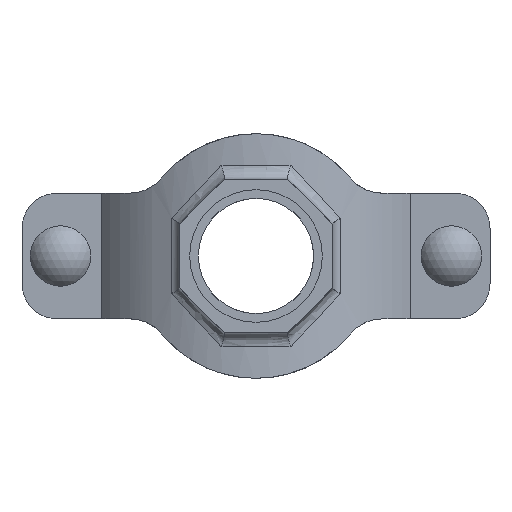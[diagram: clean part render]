
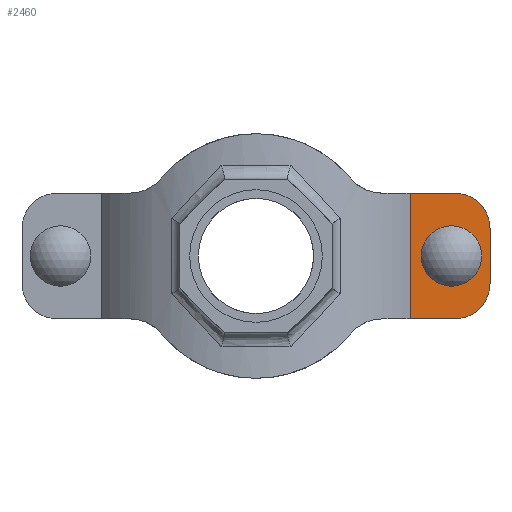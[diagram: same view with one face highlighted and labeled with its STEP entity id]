
A CAD part, front view. The second image highlights one B-rep face of the part: STEP entity #2460.
In plain terms, the highlighted planar face has unit normal (0, -1, 0) as drawn and (0, 1, 0) by its records, which use the part's own axes.
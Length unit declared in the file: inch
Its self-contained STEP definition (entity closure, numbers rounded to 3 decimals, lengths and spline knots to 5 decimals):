
#179=FACE_BOUND('',#445,.T.);
#296=FACE_OUTER_BOUND('',#444,.T.);
#444=EDGE_LOOP('',(#2079,#2080,#2081,#2082,#2083,#2084));
#445=EDGE_LOOP('',(#2085,#2086,#2087,#2088));
#585=LINE('',#4761,#767);
#596=LINE('',#4851,#778);
#600=LINE('',#4862,#782);
#628=LINE('',#5106,#810);
#629=LINE('',#5108,#811);
#630=LINE('',#5112,#812);
#767=VECTOR('',#3203,0.3937);
#778=VECTOR('',#3240,0.3937);
#782=VECTOR('',#3252,0.3937);
#810=VECTOR('',#3336,0.3937);
#811=VECTOR('',#3337,0.3937);
#812=VECTOR('',#3340,0.3937);
#886=CIRCLE('',#2704,0.343);
#888=CIRCLE('',#2708,0.343);
#901=CIRCLE('',#2739,0.63);
#902=CIRCLE('',#2740,0.63);
#1077=VERTEX_POINT('',#4758);
#1078=VERTEX_POINT('',#4760);
#1090=VERTEX_POINT('',#4841);
#1091=VERTEX_POINT('',#4842);
#1094=VERTEX_POINT('',#4850);
#1096=VERTEX_POINT('',#4856);
#1127=VERTEX_POINT('',#5105);
#1128=VERTEX_POINT('',#5107);
#1129=VERTEX_POINT('',#5109);
#1130=VERTEX_POINT('',#5111);
#1381=EDGE_CURVE('',#1078,#1077,#585,.T.);
#1398=EDGE_CURVE('',#1090,#1091,#886,.T.);
#1402=EDGE_CURVE('',#1091,#1094,#596,.T.);
#1405=EDGE_CURVE('',#1094,#1096,#888,.T.);
#1408=EDGE_CURVE('',#1096,#1090,#600,.T.);
#1454=EDGE_CURVE('',#1078,#1127,#628,.T.);
#1455=EDGE_CURVE('',#1128,#1077,#629,.T.);
#1456=EDGE_CURVE('',#1129,#1128,#901,.T.);
#1457=EDGE_CURVE('',#1130,#1129,#630,.T.);
#1458=EDGE_CURVE('',#1127,#1130,#902,.T.);
#2079=ORIENTED_EDGE('',*,*,#1454,.F.);
#2080=ORIENTED_EDGE('',*,*,#1381,.T.);
#2081=ORIENTED_EDGE('',*,*,#1455,.F.);
#2082=ORIENTED_EDGE('',*,*,#1456,.F.);
#2083=ORIENTED_EDGE('',*,*,#1457,.F.);
#2084=ORIENTED_EDGE('',*,*,#1458,.F.);
#2085=ORIENTED_EDGE('',*,*,#1405,.T.);
#2086=ORIENTED_EDGE('',*,*,#1408,.T.);
#2087=ORIENTED_EDGE('',*,*,#1398,.T.);
#2088=ORIENTED_EDGE('',*,*,#1402,.T.);
#2209=PLANE('',#2738);
#2460=ADVANCED_FACE('',(#296,#179),#2209,.F.);
#2704=AXIS2_PLACEMENT_3D('',#4843,#3232,#3233);
#2708=AXIS2_PLACEMENT_3D('',#4857,#3245,#3246);
#2738=AXIS2_PLACEMENT_3D('',#5104,#3334,#3335);
#2739=AXIS2_PLACEMENT_3D('',#5110,#3338,#3339);
#2740=AXIS2_PLACEMENT_3D('',#5113,#3341,#3342);
#3203=DIRECTION('',(0.,0.,-1.));
#3232=DIRECTION('center_axis',(0.,-1.,0.));
#3233=DIRECTION('ref_axis',(1.,0.,0.));
#3240=DIRECTION('',(0.,0.,1.));
#3245=DIRECTION('center_axis',(0.,-1.,0.));
#3246=DIRECTION('ref_axis',(-1.,0.,0.));
#3252=DIRECTION('',(0.,0.,-1.));
#3334=DIRECTION('center_axis',(0.,-1.,0.));
#3335=DIRECTION('ref_axis',(1.,0.,0.));
#3336=DIRECTION('',(-1.,0.,0.));
#3337=DIRECTION('',(1.,0.,0.));
#3338=DIRECTION('center_axis',(0.,-1.,0.));
#3339=DIRECTION('ref_axis',(0.,0.,-1.));
#3340=DIRECTION('',(0.,0.,-1.));
#3341=DIRECTION('center_axis',(0.,-1.,0.));
#3342=DIRECTION('ref_axis',(-1.,0.,0.));
#4758=CARTESIAN_POINT('',(-2.7619,2.,-1.125));
#4760=CARTESIAN_POINT('',(-2.7619,2.,1.125));
#4761=CARTESIAN_POINT('',(-2.7619,2.,0.));
#4841=CARTESIAN_POINT('',(-3.843,2.,-0.0945));
#4842=CARTESIAN_POINT('',(-3.157,2.,-0.0945));
#4843=CARTESIAN_POINT('Origin',(-3.5,2.,-0.0945));
#4850=CARTESIAN_POINT('',(-3.157,2.,0.0945));
#4851=CARTESIAN_POINT('',(-3.157,2.,0.04725));
#4856=CARTESIAN_POINT('',(-3.843,2.,0.0945));
#4857=CARTESIAN_POINT('Origin',(-3.5,2.,0.0945));
#4862=CARTESIAN_POINT('',(-3.843,2.,-0.04725));
#5104=CARTESIAN_POINT('Origin',(-4.19,2.,0.));
#5105=CARTESIAN_POINT('',(-3.56,2.,1.125));
#5106=CARTESIAN_POINT('',(-3.875,2.,1.125));
#5107=CARTESIAN_POINT('',(-3.56,2.,-1.125));
#5108=CARTESIAN_POINT('',(-3.22725,2.,-1.125));
#5109=CARTESIAN_POINT('',(-4.19,2.,-0.495));
#5110=CARTESIAN_POINT('Origin',(-3.56,2.,-0.495));
#5111=CARTESIAN_POINT('',(-4.19,2.,0.495));
#5112=CARTESIAN_POINT('',(-4.19,2.,-0.2475));
#5113=CARTESIAN_POINT('Origin',(-3.56,2.,0.495));
